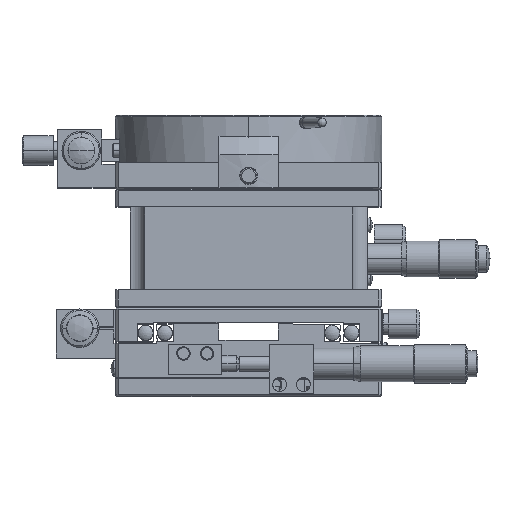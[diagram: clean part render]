
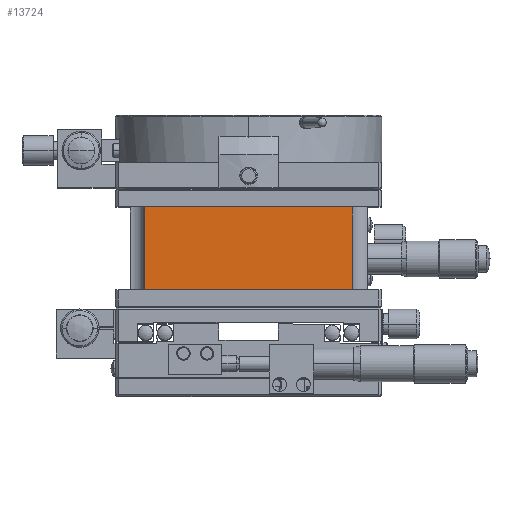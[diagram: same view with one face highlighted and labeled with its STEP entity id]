
A CAD part, top view. The second image highlights one B-rep face of the part: STEP entity #13724.
In plain terms, the highlighted planar face has unit normal (0, 0, -1).
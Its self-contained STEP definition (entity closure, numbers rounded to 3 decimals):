
#315 = DIRECTION ( 'NONE',  ( 1., 0., 0. ) ) ;
#325 = DIRECTION ( 'NONE',  ( -1., 0., 0. ) ) ;
#403 = VECTOR ( 'NONE', #34989, 1000. ) ;
#811 = EDGE_CURVE ( 'NONE', #6434, #33143, #6475, .T. ) ;
#1073 = EDGE_CURVE ( 'NONE', #3458, #6434, #6880, .T. ) ;
#2182 = EDGE_CURVE ( 'NONE', #25629, #3458, #27244, .T. ) ;
#3458 = VERTEX_POINT ( 'NONE', #32738 ) ;
#6434 = VERTEX_POINT ( 'NONE', #22730 ) ;
#6475 = LINE ( 'NONE', #28434, #18853 ) ;
#6667 = DIRECTION ( 'NONE',  ( 0., 1., 0. ) ) ;
#6829 = ORIENTED_EDGE ( 'NONE', *, *, #1073, .F. ) ;
#6880 = LINE ( 'NONE', #14299, #20506 ) ;
#8730 = ORIENTED_EDGE ( 'NONE', *, *, #21200, .F. ) ;
#13110 = CARTESIAN_POINT ( 'NONE',  ( -35., 36., 40. ) ) ;
#13724 = ADVANCED_FACE ( 'NONE', ( #16379 ), #19174, .F. ) ;
#14299 = CARTESIAN_POINT ( 'NONE',  ( 35., 30., 40. ) ) ;
#16379 = FACE_OUTER_BOUND ( 'NONE', #28631, .T. ) ;
#16636 = DIRECTION ( 'NONE',  ( 0., 0., 1. ) ) ;
#18853 = VECTOR ( 'NONE', #325, 1000. ) ;
#19174 = PLANE ( 'NONE',  #22933 ) ;
#19200 = ORIENTED_EDGE ( 'NONE', *, *, #811, .F. ) ;
#19408 = VECTOR ( 'NONE', #23124, 1000. ) ;
#20506 = VECTOR ( 'NONE', #6667, 1000. ) ;
#20717 = CARTESIAN_POINT ( 'NONE',  ( -35., 36., 40. ) ) ;
#21050 = ORIENTED_EDGE ( 'NONE', *, *, #2182, .F. ) ;
#21200 = EDGE_CURVE ( 'NONE', #33143, #25629, #26606, .T. ) ;
#21681 = CARTESIAN_POINT ( 'NONE',  ( -35., 64., 40. ) ) ;
#22730 = CARTESIAN_POINT ( 'NONE',  ( 35., 64., 40. ) ) ;
#22933 = AXIS2_PLACEMENT_3D ( 'NONE', #32570, #16636, #315 ) ;
#23124 = DIRECTION ( 'NONE',  ( 0., -1., 0. ) ) ;
#25629 = VERTEX_POINT ( 'NONE', #20717 ) ;
#26606 = LINE ( 'NONE', #30510, #19408 ) ;
#27244 = LINE ( 'NONE', #13110, #403 ) ;
#28434 = CARTESIAN_POINT ( 'NONE',  ( 0., 64., 40. ) ) ;
#28631 = EDGE_LOOP ( 'NONE', ( #21050, #8730, #19200, #6829 ) ) ;
#30510 = CARTESIAN_POINT ( 'NONE',  ( -35., 30., 40. ) ) ;
#32570 = CARTESIAN_POINT ( 'NONE',  ( -35., 30., 40. ) ) ;
#32738 = CARTESIAN_POINT ( 'NONE',  ( 35., 36., 40. ) ) ;
#33143 = VERTEX_POINT ( 'NONE', #21681 ) ;
#34989 = DIRECTION ( 'NONE',  ( 1., 0., 0. ) ) ;
